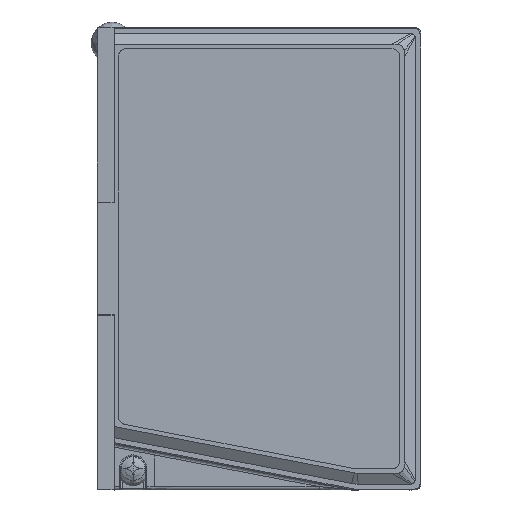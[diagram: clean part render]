
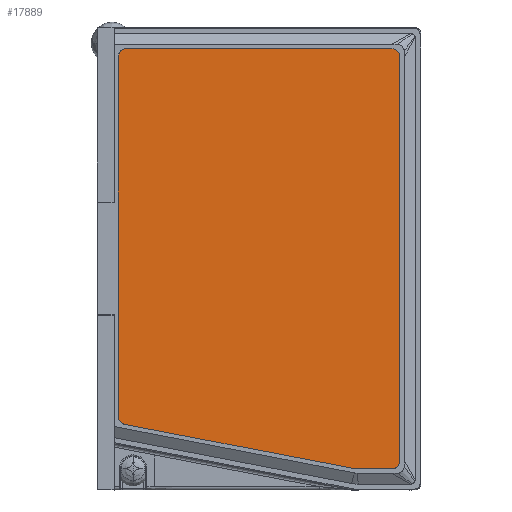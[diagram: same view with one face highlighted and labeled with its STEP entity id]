
A CAD part, left-side view. The second image highlights one B-rep face of the part: STEP entity #17889.
In plain terms, the highlighted planar face has unit normal (-1, 0, 0).
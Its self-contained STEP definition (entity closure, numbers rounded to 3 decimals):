
#2005=(
BOUNDED_CURVE()
B_SPLINE_CURVE(2,(#193372,#193373,#193374),.UNSPECIFIED.,.F.,.F.)
B_SPLINE_CURVE_WITH_KNOTS((3,3),(-2.985,0.),.UNSPECIFIED.)
CURVE()
GEOMETRIC_REPRESENTATION_ITEM()
RATIONAL_B_SPLINE_CURVE((1.,0.707,1.))
REPRESENTATION_ITEM('')
);
#2006=(
BOUNDED_CURVE()
B_SPLINE_CURVE(2,(#193378,#193379,#193380),.UNSPECIFIED.,.F.,.F.)
B_SPLINE_CURVE_WITH_KNOTS((3,3),(-2.985,0.),.UNSPECIFIED.)
CURVE()
GEOMETRIC_REPRESENTATION_ITEM()
RATIONAL_B_SPLINE_CURVE((1.,0.707,1.))
REPRESENTATION_ITEM('')
);
#2007=(
BOUNDED_CURVE()
B_SPLINE_CURVE(2,(#193384,#193385,#193386),.UNSPECIFIED.,.F.,.F.)
B_SPLINE_CURVE_WITH_KNOTS((3,3),(-0.499,0.),.UNSPECIFIED.)
CURVE()
GEOMETRIC_REPRESENTATION_ITEM()
RATIONAL_B_SPLINE_CURVE((1.,0.995,1.))
REPRESENTATION_ITEM('')
);
#2008=(
BOUNDED_CURVE()
B_SPLINE_CURVE(2,(#193402,#193403,#193404),.UNSPECIFIED.,.F.,.F.)
B_SPLINE_CURVE_WITH_KNOTS((3,3),(-2.623,0.),.UNSPECIFIED.)
CURVE()
GEOMETRIC_REPRESENTATION_ITEM()
RATIONAL_B_SPLINE_CURVE((1.,0.771,1.))
REPRESENTATION_ITEM('')
);
#17889=ADVANCED_FACE('',(#21842),#116769,.T.);
#21842=FACE_OUTER_BOUND('',#25961,.T.);
#25961=EDGE_LOOP('',(#45209,#45210,#45211,#45212,#45213,#45214,#45215,#45216,
#45217,#45218));
#45209=ORIENTED_EDGE('',*,*,#67460,.F.);
#45210=ORIENTED_EDGE('',*,*,#67461,.T.);
#45211=ORIENTED_EDGE('',*,*,#67459,.F.);
#45212=ORIENTED_EDGE('',*,*,#67462,.T.);
#45213=ORIENTED_EDGE('',*,*,#67458,.F.);
#45214=ORIENTED_EDGE('',*,*,#67457,.T.);
#45215=ORIENTED_EDGE('',*,*,#67456,.F.);
#45216=ORIENTED_EDGE('',*,*,#67455,.T.);
#45217=ORIENTED_EDGE('',*,*,#67454,.F.);
#45218=ORIENTED_EDGE('',*,*,#67453,.T.);
#67453=EDGE_CURVE('',#110070,#110071,#2005,.T.);
#67454=EDGE_CURVE('',#110070,#110072,#88530,.T.);
#67455=EDGE_CURVE('',#110073,#110072,#2006,.T.);
#67456=EDGE_CURVE('',#110073,#110074,#88531,.T.);
#67457=EDGE_CURVE('',#110075,#110074,#2007,.T.);
#67458=EDGE_CURVE('',#110075,#110076,#88532,.T.);
#67459=EDGE_CURVE('',#110077,#110078,#88533,.T.);
#67460=EDGE_CURVE('',#110079,#110071,#88534,.T.);
#67461=EDGE_CURVE('',#110079,#110078,#88535,.T.);
#67462=EDGE_CURVE('',#110077,#110076,#2008,.T.);
#88530=B_SPLINE_CURVE_WITH_KNOTS('',2,(#193375,#193376,#193377),
 .UNSPECIFIED.,.F.,.F.,(3,3),(-100.643,-4.443),
 .UNSPECIFIED.);
#88531=B_SPLINE_CURVE_WITH_KNOTS('',2,(#193381,#193382,#193383),
 .UNSPECIFIED.,.F.,.F.,(3,3),(-0.561,7.684),
 .UNSPECIFIED.);
#88532=B_SPLINE_CURVE_WITH_KNOTS('',3,(#193387,#193388,#193389,#193390),
 .UNSPECIFIED.,.F.,.F.,(4,4),(7.309,63.136),
 .UNSPECIFIED.);
#88533=B_SPLINE_CURVE_WITH_KNOTS('',1,(#193391,#193392),.UNSPECIFIED.,.F.,
 .F.,(2,2),(-85.622,0.),.UNSPECIFIED.);
#88534=B_SPLINE_CURVE_WITH_KNOTS('',2,(#193393,#193394,#193395),
 .UNSPECIFIED.,.F.,.F.,(3,3),(-167.493,-104.293),
 .UNSPECIFIED.);
#88535=B_SPLINE_CURVE_WITH_KNOTS('',5,(#193396,#193397,#193398,#193399,
#193400,#193401),.UNSPECIFIED.,.F.,.F.,(6,6),(0.,3.144),
 .UNSPECIFIED.);
#110070=VERTEX_POINT('',#193362);
#110071=VERTEX_POINT('',#193363);
#110072=VERTEX_POINT('',#193364);
#110073=VERTEX_POINT('',#193365);
#110074=VERTEX_POINT('',#193366);
#110075=VERTEX_POINT('',#193367);
#110076=VERTEX_POINT('',#193368);
#110077=VERTEX_POINT('',#193369);
#110078=VERTEX_POINT('',#193370);
#110079=VERTEX_POINT('',#193371);
#116769=PLANE('',#120179);
#120179=AXIS2_PLACEMENT_3D('',#193361,#123573,$);
#123573=DIRECTION('',(-1.,0.,0.));
#193361=CARTESIAN_POINT('',(452.458,-151.047,231.975));
#193362=CARTESIAN_POINT('',(452.458,-144.287,220.015));
#193363=CARTESIAN_POINT('',(452.458,-142.387,221.915));
#193364=CARTESIAN_POINT('',(452.458,-144.287,123.815));
#193365=CARTESIAN_POINT('',(452.458,-142.387,121.915));
#193366=CARTESIAN_POINT('',(452.458,-134.142,121.915));
#193367=CARTESIAN_POINT('',(452.458,-133.646,121.962));
#193368=CARTESIAN_POINT('',(452.458,-78.828,132.527));
#193369=CARTESIAN_POINT('',(452.458,-77.287,134.393));
#193370=CARTESIAN_POINT('',(452.458,-77.287,220.015));
#193371=CARTESIAN_POINT('',(452.458,-79.187,221.915));
#193372=CARTESIAN_POINT('',(452.458,-144.287,220.015));
#193373=CARTESIAN_POINT('',(452.458,-144.287,221.915));
#193374=CARTESIAN_POINT('',(452.458,-142.387,221.915));
#193375=CARTESIAN_POINT('',(452.458,-144.287,220.015));
#193376=CARTESIAN_POINT('',(452.458,-144.287,171.915));
#193377=CARTESIAN_POINT('',(452.458,-144.287,123.815));
#193378=CARTESIAN_POINT('',(452.458,-142.387,121.915));
#193379=CARTESIAN_POINT('',(452.458,-144.287,121.915));
#193380=CARTESIAN_POINT('',(452.458,-144.287,123.815));
#193381=CARTESIAN_POINT('',(452.458,-142.387,121.915));
#193382=CARTESIAN_POINT('',(452.458,-138.264,121.915));
#193383=CARTESIAN_POINT('',(452.458,-134.142,121.915));
#193384=CARTESIAN_POINT('',(452.458,-133.646,121.962));
#193385=CARTESIAN_POINT('',(452.458,-133.892,121.915));
#193386=CARTESIAN_POINT('',(452.458,-134.142,121.915));
#193387=CARTESIAN_POINT('',(452.458,-133.646,121.962));
#193388=CARTESIAN_POINT('',(452.458,-115.373,125.484));
#193389=CARTESIAN_POINT('',(452.458,-97.1,129.005));
#193390=CARTESIAN_POINT('',(452.458,-78.828,132.527));
#193391=CARTESIAN_POINT('',(452.458,-77.287,134.393));
#193392=CARTESIAN_POINT('',(452.458,-77.287,220.015));
#193393=CARTESIAN_POINT('',(452.458,-79.187,221.915));
#193394=CARTESIAN_POINT('',(452.458,-110.787,221.915));
#193395=CARTESIAN_POINT('',(452.458,-142.387,221.915));
#193396=CARTESIAN_POINT('',(452.458,-79.187,221.915));
#193397=CARTESIAN_POINT('',(452.458,-78.59,221.915));
#193398=CARTESIAN_POINT('',(452.458,-77.993,221.68));
#193399=CARTESIAN_POINT('',(452.458,-77.521,221.208));
#193400=CARTESIAN_POINT('',(452.458,-77.287,220.611));
#193401=CARTESIAN_POINT('',(452.458,-77.287,220.015));
#193402=CARTESIAN_POINT('',(452.458,-77.287,134.393));
#193403=CARTESIAN_POINT('',(452.458,-77.287,132.824));
#193404=CARTESIAN_POINT('',(452.458,-78.828,132.527));
